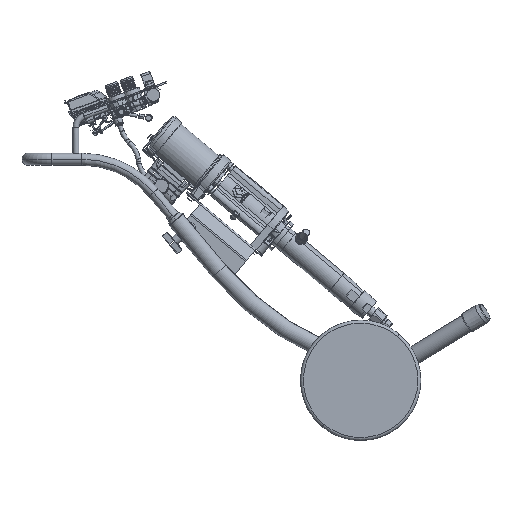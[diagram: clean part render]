
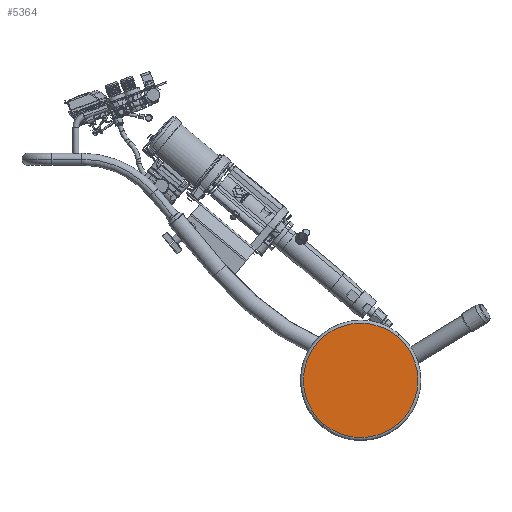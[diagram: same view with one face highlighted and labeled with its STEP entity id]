
A CAD part, left-side view. The second image highlights one B-rep face of the part: STEP entity #5364.
In plain terms, the highlighted planar face has unit normal (-1, 0, 0).
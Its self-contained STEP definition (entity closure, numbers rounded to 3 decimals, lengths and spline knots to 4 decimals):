
#5133=CARTESIAN_POINT('',(-10.225,-22.7486,-18.4486));
#5134=DIRECTION('',(-1.,0.,0.));
#5135=DIRECTION('',(0.,-0.643,0.766));
#5136=AXIS2_PLACEMENT_3D('',#5133,#5134,#5135);
#5138=CARTESIAN_POINT('',(-10.225,-22.7486,-18.4486));
#5139=DIRECTION('',(1.,0.,0.));
#5140=DIRECTION('',(0.,-0.643,0.766));
#5141=AXIS2_PLACEMENT_3D('',#5138,#5139,#5140);
#5211=CARTESIAN_POINT('',(-10.225,-25.818,-14.7907));
#5212=VERTEX_POINT('',#5211);
#5219=CARTESIAN_POINT('',(-10.225,-19.6793,-22.1064));
#5220=VERTEX_POINT('',#5219);
#5353=CARTESIAN_POINT('',(-10.225,-22.7486,-18.4486));
#5354=DIRECTION('',(1.,0.,0.));
#5355=DIRECTION('',(0.,0.643,-0.766));
#5356=AXIS2_PLACEMENT_3D('',#5353,#5354,#5355);
#5357=PLANE('',#5356);
#5359=ORIENTED_EDGE('',*,*,#5358,.F.);
#5361=ORIENTED_EDGE('',*,*,#5360,.T.);
#5362=EDGE_LOOP('',(#5359,#5361));
#5363=FACE_OUTER_BOUND('',#5362,.F.);
#5364=ADVANCED_FACE('',(#5363),#5357,.F.);
#5137=CIRCLE('',#5136,4.775);
#5142=CIRCLE('',#5141,4.775);
#5358=EDGE_CURVE('',#5212,#5220,#5137,.T.);
#5360=EDGE_CURVE('',#5212,#5220,#5142,.T.);
